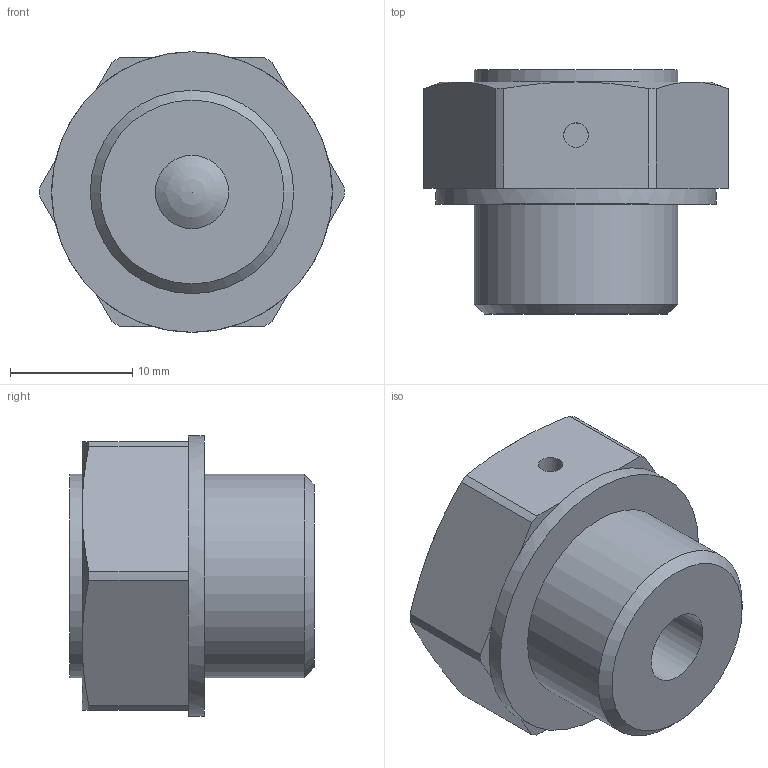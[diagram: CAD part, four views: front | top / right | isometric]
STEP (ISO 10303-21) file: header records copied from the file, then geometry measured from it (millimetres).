
FILE_DESCRIPTION( ( 'STEP AP203' ), '1' );
FILE_NAME( 'C:/Temp/Ganter_Step_05_03_2020/data/3_5/gn883/Breather valve GN 883-G3_8-20-A-MS.stp', '2020-03-12T13:42:46', ( 'License CC BY-ND 4.0' ), ( 'CADENAS' ), ' ', 'PARTsolutions', ' ' );
FILE_SCHEMA( ( 'CONFIG_CONTROL_DESIGN' ) );
Length unit declared in the file: millimetre
Products named in the file (1): _Breather valve GN 883-G3/8-20-A-MS
Bounding box: 25 x 20 x 23 mm (x, y, z)
Volume: 6181.7 mm3; surface area: 2265.1 mm2
Topology: 1 solids, 1 shells, 42 faces, 92 edges, 55 vertices
Faces by surface type: plane 23, cylinder 11, cone 7, sphere 1
Full cylindrical faces by diameter (mm): 2 x1, 6 x1, 16.66 x1, 16.662 x1, 23 x1
Entity records: 1166 total; most frequent: CARTESIAN_POINT 238, DIRECTION 196, ORIENTED_EDGE 164, AXIS2_PLACEMENT_3D 83, EDGE_CURVE 82, VERTEX_POINT 53, EDGE_LOOP 52, FACE_OUTER_BOUND 47
